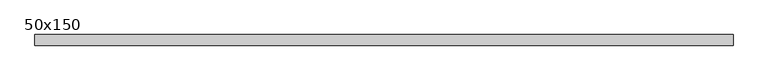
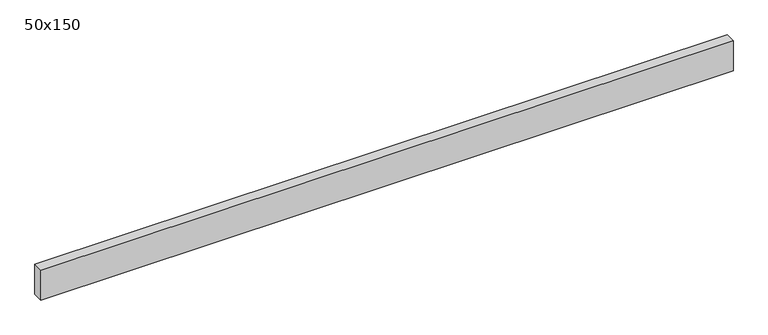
"""IFC4 building model written with IfcOpenShell, lengths in millimetres: beam geometry, Graded Timber : 50x150."""

from ifc_helpers import new_model, si_unit, frame, origin, place, context, project, spatial, polyline, outline, extrude, source, transform, mapped, element, save


def beam_50x150_4a47f951(model_context):
    return source(origin(), model_context, "Body", "SweptSolid", [
        extrude(outline(polyline([(1640.5, 25.0), (1640.5, -25.0), (-1640.5, -25.0), (-1640.5, 25.0), (1640.5, 25.0)])), frame((0.0, 0.0, -75.0), z_axis=(0.0, 0.0, 1.0), x_axis=(1.0, 0.0, 0.0)), (0.0, 0.0, 1.0), 150.0),
    ])


if __name__ == "__main__":
    model = new_model("IFC4")
    model_context = context("Model", 3, world=origin())
    ifc_project = project(units=[si_unit("LENGTHUNIT", "METRE", prefix="MILLI")], contexts=[model_context])
    site = spatial("IfcSite", under=ifc_project)
    building = spatial("IfcBuilding", under=site)
    placement = place(None, origin())
    beam_50x150_shape = beam_50x150_4a47f951(model_context)
    element("IfcBeam", 1, ObjectType="Graded Timber : 50x150", at=placement, inside=building, context=model_context, shape_type="MappedRepresentation", body=[
        mapped(beam_50x150_shape, transform((0.0, 0.0, 0.0), x_axis=(1.0, 0.0, 0.0), y_axis=(0.0, 1.0, 0.0), z_axis=(0.0, 0.0, 1.0))),
    ])
    save(model, "model.ifc")
